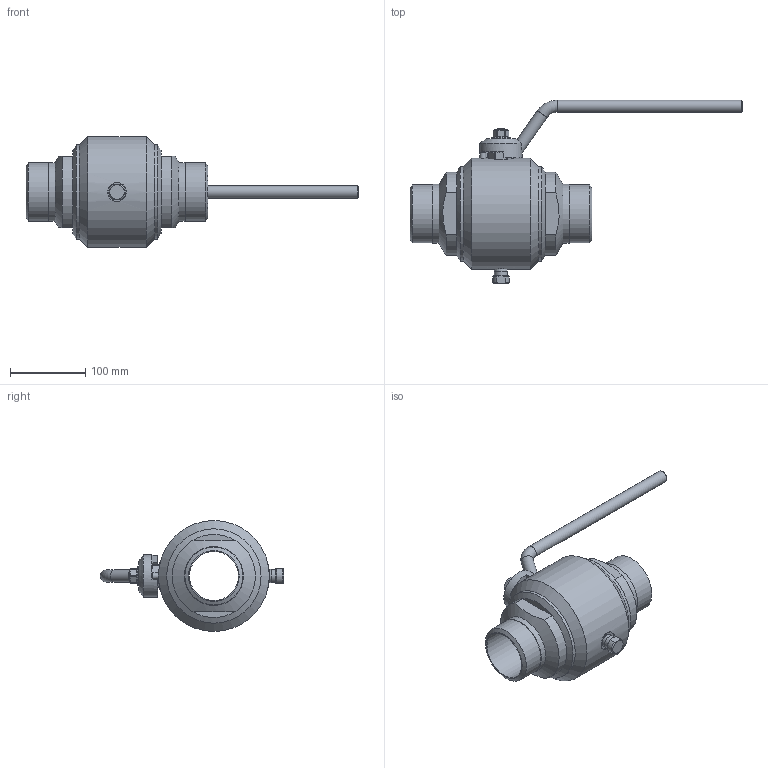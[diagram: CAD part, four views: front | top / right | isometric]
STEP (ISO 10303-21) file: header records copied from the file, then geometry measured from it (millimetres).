
FILE_DESCRIPTION(('STEP AP203'), '1');
FILE_NAME('ZARDP 065.040.40.P.stp', '2013-12-06T10:23:01', ('1'), ('1'), 'ASCON STEP Converter 1.3', 'Kompas 3D', '');
FILE_SCHEMA(('CONFIG_CONTROL_DESIGN','SUPPORT_RESOURCE_SCHEMA'));
Length unit declared in the file: millimetre
Products named in the file (1): 250
Bounding box: 439.81 x 243 x 147 mm (x, y, z)
Volume: 1618953.9 mm3; surface area: 201155.9 mm2
Topology: 1 solids, 5 shells, 174 faces, 409 edges, 248 vertices
Faces by surface type: plane 70, cylinder 55, cone 41, torus 8
Full cylindrical faces by diameter (mm): 8 x2, 12 x2, 14.141 x1, 16 x2, 17.33 x1, 22 x1, 24 x3, 24.1 x1, 25 x1, 26 x1, 31.8 x1, 32 x1, 35 x2, 56 x1, 65 x2, 77 x2, 78 x2, 107.8 x1, 125 x2, 147 x1
Entity records: 7561 total; most frequent: CARTESIAN_POINT 3466, DIRECTION 863, ORIENTED_EDGE 818, EDGE_CURVE 409, AXIS2_PLACEMENT_3D 348, VERTEX_POINT 248, EDGE_LOOP 195, ADVANCED_FACE 174
